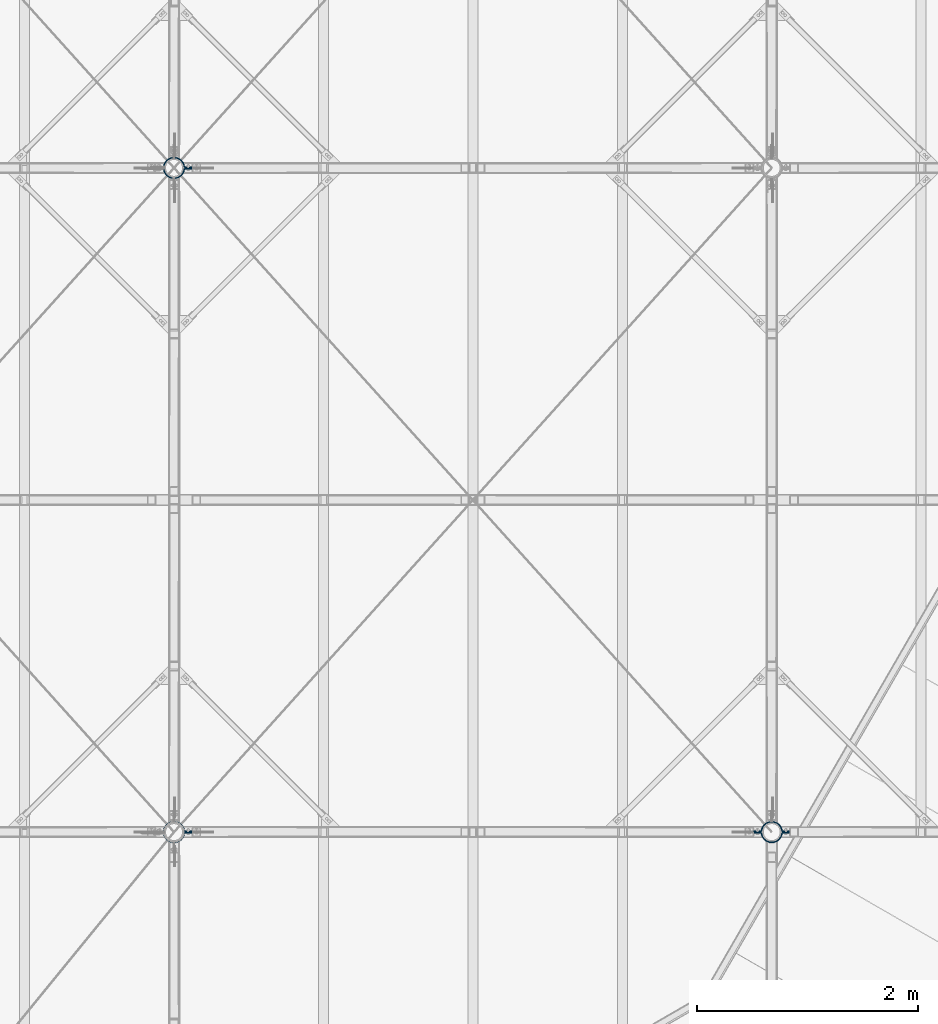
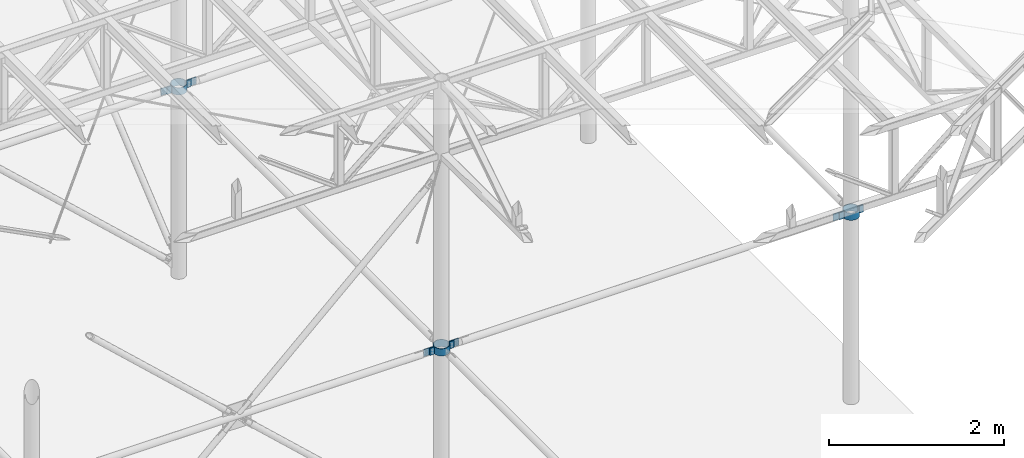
# One storey, part 128 of 132: 6 beams, 6 elements without a shape of their own.
"""IFC2X3 building model written with IfcOpenShell, lengths in millimetres."""

import ifcopenshell
import ifcopenshell.guid

model = None  # the IFC model being written
_history = None  # IfcOwnerHistory: only IFC2X3 demands one
_inside = {}  # id of a spatial element -> (the spatial element, [elements in it])
_under = {}  # id of a project, library or spatial element -> (it, [spatial elements below it])
_declared = {}  # id of a project -> (the project, [libraries it declares])
_typed = {}  # id of a type object -> (the type object, [elements of that type])
_made_of = {}  # id of a material, layer set ... -> (it, [elements and type objects made of it])


def new_model(schema):
    """Start an empty IFC model of exactly this schema.

    Asked for "IFC4X3", IfcOpenShell would pick the latest addendum, in which some entities
    have other attributes; the version numbers below select the first issue.
    IFC2X3 requires an IfcOwnerHistory on every rooted entity: one is made here for all.
    """
    global model, _history
    if schema == "IFC4X3":
        model = ifcopenshell.file(schema_version=(4, 3, 0, 0))
    else:
        model = ifcopenshell.file(schema=schema)
    _inside.clear()
    _under.clear()
    _declared.clear()
    _typed.clear()
    _made_of.clear()
    _history = None
    if model.schema == "IFC2X3":
        org = make("IfcOrganization", Name="unknown")
        user = make(
            "IfcPersonAndOrganization",
            ThePerson=make("IfcPerson", FamilyName="unknown"),
            TheOrganization=org,
        )
        app = make(
            "IfcApplication",
            ApplicationDeveloper=org,
            Version="unknown",
            ApplicationFullName="unknown",
            ApplicationIdentifier="unknown",
        )
        _history = make(
            "IfcOwnerHistory",
            OwningUser=user,
            OwningApplication=app,
            ChangeAction="ADDED",
            CreationDate=0,
        )
    return model


def make(cls, **values):
    """One entity of the class cls with the attributes given. An attribute that is None is left unset."""
    return model.create_entity(
        cls, **{name: value for name, value in values.items() if value is not None}
    )


def rooted(cls, **values):
    """An entity with a GlobalId (a new one), such as an element, a storey or a relation."""
    return make(cls, GlobalId=ifcopenshell.guid.new(), OwnerHistory=_history, **values)


def si_unit(unit_type, name, prefix=None):
    """IfcSIUnit, for example si_unit("LENGTHUNIT", "METRE", prefix="MILLI")."""
    return make("IfcSIUnit", UnitType=unit_type, Prefix=prefix, Name=name)


def assignment(units):
    """IfcUnitAssignment: the units of a project."""
    return None if units is None else make("IfcUnitAssignment", Units=units)


def point(xyz):
    """IfcCartesianPoint."""
    return None if xyz is None else make("IfcCartesianPoint", Coordinates=xyz)


def direction(xyz):
    """IfcDirection."""
    return None if xyz is None else make("IfcDirection", DirectionRatios=xyz)


def frame(location, z_axis=None, x_axis=None):
    """IfcAxis2Placement3D, a coordinate frame: its origin and axes. An axis left out is left unset."""
    return make(
        "IfcAxis2Placement3D",
        Location=point(location),
        Axis=direction(z_axis),
        RefDirection=direction(x_axis),
    )


def origin_with_axes():
    """The frame at (0, 0, 0) with the z axis (0, 0, 1) and the x axis (1, 0, 0) written out."""
    return frame((0.0, 0.0, 0.0), z_axis=(0.0, 0.0, 1.0), x_axis=(1.0, 0.0, 0.0))


def place(relative_to, where):
    """IfcLocalPlacement: puts the frame where relative to a parent placement (None: the world)."""
    return make(
        "IfcLocalPlacement", PlacementRelTo=relative_to, RelativePlacement=where
    )


def context(
    kind, dimensions, precision=None, world=None, true_north=None, identifier=None
):
    """IfcGeometricRepresentationContext, for example the 3D "Model" context."""
    return make(
        "IfcGeometricRepresentationContext",
        ContextIdentifier=identifier,
        ContextType=kind,
        CoordinateSpaceDimension=dimensions,
        Precision=precision,
        WorldCoordinateSystem=world,
        TrueNorth=true_north,
    )


def subcontext(parent, identifier, kind, view, scale=None):
    """IfcGeometricRepresentationSubContext, for example "Body" below "Model"."""
    return make(
        "IfcGeometricRepresentationSubContext",
        ContextIdentifier=identifier,
        ContextType=kind,
        ParentContext=parent,
        TargetScale=scale,
        TargetView=view,
    )


def project(units=None, contexts=None):
    """IfcProject with its units and contexts."""
    return rooted(
        "IfcProject",
        Name="project",
        RepresentationContexts=contexts,
        UnitsInContext=assignment(units),
    )


def spatial(cls, under=None, at=None, **own):
    """A site, building, storey or space (cls), placed at a placement, below another one or the project."""
    s = rooted(cls, ObjectPlacement=at, **own)
    if under is not None:
        _under.setdefault(under.id(), (under, []))[1].append(s)
    return s


def faces_of(points, faces, orient=None, outer=None):
    """IfcFace entities. A face is a list of loops; a loop is a list of indices into points, from 0.

    orient and outer hold one flag for each loop. By default every Orientation is true, the
    first loop of a face is its IfcFaceOuterBound and the others are IfcFaceBound.
    """
    made = []
    for i, loops in enumerate(faces):
        bounds = []
        for j, loop in enumerate(loops):
            is_outer = j == 0 if outer is None else outer[i][j]
            bounds.append(
                make(
                    "IfcFaceOuterBound" if is_outer else "IfcFaceBound",
                    Bound=make("IfcPolyLoop", Polygon=[points[k] for k in loop]),
                    Orientation=True if orient is None else orient[i][j],
                )
            )
        made.append(make("IfcFace", Bounds=bounds))
    return made


def faceted_brep(points, faces, orient=None, outer=None, voids=None):
    """IfcFacetedBrep: a solid bounded by flat faces; with voids (closed shells), ...WithVoids."""
    shared = [point(p) for p in points]
    hull = make("IfcClosedShell", CfsFaces=faces_of(shared, faces, orient, outer))
    if voids is None:
        return make("IfcFacetedBrep", Outer=hull)
    return make(
        "IfcFacetedBrepWithVoids",
        Outer=hull,
        Voids=[
            make(cls, CfsFaces=faces_of(shared, fs, o, b)) for cls, fs, o, b in voids
        ],
    )


def shape(context_of_items, identifier, shape_type, items):
    """IfcShapeRepresentation: the items that make up one representation, for example the "Body"."""
    return make(
        "IfcShapeRepresentation",
        ContextOfItems=context_of_items,
        RepresentationIdentifier=identifier,
        RepresentationType=shape_type,
        Items=items,
    )


def material(Name=None, Category=None):
    """IfcMaterial."""
    return make("IfcMaterial", Name=Name, Category=Category)


def made_of(thing, what):
    """Note that an element or type object is made of a material, layer set ...; save() writes the relation."""
    if what is not None:
        _made_of.setdefault(what.id(), (what, []))[1].append(thing)
    return thing


def type_object(cls, material=None, **own):
    """A type object (cls), such as IfcWallType, which elements share."""
    return made_of(rooted(cls, **own), material)


def element(
    cls,
    number,
    at=None,
    inside=None,
    cuts=None,
    type_object=None,
    material=None,
    context=None,
    identifier="Body",
    shape_type=None,
    held_by="IfcProductDefinitionShape",
    body=None,
    shapes=None,
    **own,
):
    """One element of the class cls, such as IfcWall. Its Tag is "e" and its number.

    at: its placement. inside: the storey or other place that contains it. cuts: it is an
    opening in that element (IfcRelVoidsElement). A single representation is given by context,
    identifier, shape_type and body (its items); several are given by shapes. held_by: the class
    of the entity that holds the representations. save() writes the other relations.
    """
    e = rooted(cls, Tag="e%d" % number, ObjectPlacement=at, **own)
    if body is not None:
        shapes = [shape(context, identifier, shape_type, body)]
    if shapes is not None:
        e.Representation = make(held_by, Representations=shapes)
    if inside is not None:
        _inside.setdefault(inside.id(), (inside, []))[1].append(e)
    if cuts is not None:
        rooted(
            "IfcRelVoidsElement", RelatingBuildingElement=cuts, RelatedOpeningElement=e
        )
    if type_object is not None:
        _typed.setdefault(type_object.id(), (type_object, []))[1].append(e)
    return made_of(e, material)


def aggregate(whole, parts):
    """IfcRelAggregates: a whole, such as a stair, and the parts it consists of."""
    return rooted("IfcRelAggregates", RelatingObject=whole, RelatedObjects=parts)


def save(model, path):
    """Write the relations noted so far, then the file.

    IfcRelAggregates (storeys below a building ...), IfcRelContainedInSpatialStructure (elements
    in a storey), IfcRelDefinesByType, IfcRelAssociatesMaterial and IfcRelDeclares: one each for
    every whole, place, type object, material and project.
    """
    for whole, parts in _under.values():
        aggregate(whole, parts)
    for where, things in _inside.values():
        rooted(
            "IfcRelContainedInSpatialStructure",
            RelatedElements=things,
            RelatingStructure=where,
        )
    for kind, things in _typed.values():
        rooted("IfcRelDefinesByType", RelatedObjects=things, RelatingType=kind)
    for what, things in _made_of.values():
        rooted("IfcRelAssociatesMaterial", RelatedObjects=things, RelatingMaterial=what)
    for by, libraries in _declared.values():
        rooted("IfcRelDeclares", RelatingContext=by, RelatedDefinitions=libraries)
    model.write(path)


model = new_model("IFC2X3")

# Units and contexts
model_context = context("Model", 3, precision=1e-05, world=origin_with_axes())
body_context = subcontext(model_context, "Body", "Model", "MODEL_VIEW")
ifc_project = project(units=[si_unit("LENGTHUNIT", "METRE", prefix="MILLI"), si_unit("AREAUNIT", "SQUARE_METRE"), si_unit("VOLUMEUNIT", "CUBIC_METRE"), si_unit("MASSUNIT", "GRAM", prefix="KILO"), si_unit("TIMEUNIT", "SECOND"), si_unit("PLANEANGLEUNIT", "RADIAN"), si_unit("SOLIDANGLEUNIT", "STERADIAN"), si_unit("THERMODYNAMICTEMPERATUREUNIT", "DEGREE_CELSIUS"), si_unit("LUMINOUSINTENSITYUNIT", "LUMEN")], contexts=[model_context])

# Site, building, storey
site_placement = place(None, origin_with_axes())
site = spatial("IfcSite", under=ifc_project, at=site_placement, Name="Budowa", CompositionType="ELEMENT")
building_placement = place(site_placement, origin_with_axes())
building = spatial("IfcBuilding", under=site, at=building_placement, Name="Undefined", CompositionType="ELEMENT")
storey_placement = place(building_placement, origin_with_axes())
storey = spatial("IfcBuildingStorey", under=building, at=storey_placement, Name="Undefined", CompositionType="ELEMENT", Elevation=0.0)

# Assembly, beam
assembly_1_placement = place(storey_placement, origin_with_axes())
assembly_1 = element("IfcElementAssembly", 1, at=assembly_1_placement, inside=storey, Name="Steel Assembly", AssemblyPlace="NOTDEFINED", PredefinedType="RIGID_FRAME")
ifc_material = material(Name="STEEL/S235JR")
beam_type = type_object("IfcBeamType", Name="BL8*100", PredefinedType="NOTDEFINED")
beam_1_placement = place(assembly_1_placement, frame((14591.863305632, 12006.00000016, 10116.0003779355), z_axis=(0.0, 0.0, 1.0), x_axis=(1.0, 0.0, 0.0)))
beam_1 = element("IfcBeam", 2, at=beam_1_placement, type_object=beam_type, material=ifc_material, Name="BEAM", ObjectType="BL8*100", context=body_context, shape_type="Brep", body=[
    faceted_brep([(0.0, 4.0, -50.0), (0.0, 4.0, 50.0), (129.968378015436, 4.0, 50.0), (129.968378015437, 4.00000000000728, -50.0), (0.0, -4.0, 50.0), (0.0, -4.0, -50.0), (129.968378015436, -4.0, -50.0), (129.968378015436, -4.0, 50.0), (133.662366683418, 4.90391321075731, 50.0), (133.662366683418, 4.90391321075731, -50.0), (137.356355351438, -2.19217357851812, -50.0), (137.356355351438, -2.19217357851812, 50.0), (143.074810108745, 2.82277613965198, -50.0), (143.074810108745, 2.82277613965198, 50.0), (136.521594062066, 7.41138806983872, 50.0), (136.521594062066, 7.41138806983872, -50.0), (145.83149558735, 9.91157932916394, -50.0), (145.83149558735, 9.91157932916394, 50.0), (137.899936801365, 10.9557896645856, 50.0), (137.899936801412, 10.9557896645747, -50.0), (138.988842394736, 19.2268423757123, 50.0), (138.988842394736, 19.2268423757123, -50.0), (146.782928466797, 17.1384239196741, -50.0), (146.782928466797, 17.1384239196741, 50.0), (148.726032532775, 42.7345153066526, 50.0), (148.726032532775, 42.7345153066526, -50.0), (155.714019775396, 38.7000007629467, -50.0), (155.714019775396, 38.7000007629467, 50.0), (164.215673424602, 62.9210138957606, 50.0), (164.215673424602, 62.9210138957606, -50.0), (169.921340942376, 57.2153472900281, -50.0), (169.921340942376, 57.2153472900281, 50.0), (184.402176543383, 78.4106633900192, 50.0), (184.402176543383, 78.4106633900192, -50.0), (188.436691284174, 71.4226760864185, -50.0), (188.436691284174, 71.4226760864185, 50.0), (207.909857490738, 88.1478534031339, 50.0), (207.909857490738, 88.1478534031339, -50.0), (209.998275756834, 80.3537673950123, -50.0), (209.998275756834, 80.3537673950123, 50.0), (233.136687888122, 91.4690333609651, 50.0), (233.136687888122, 91.4690333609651, -50.0), (233.136688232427, 83.4000015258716, -50.0), (233.136688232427, 83.4000015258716, 50.0), (258.363533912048, 88.1478535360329, 50.0), (258.363533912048, 88.1478535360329, -50.0), (256.275115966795, 80.3537673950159, -50.0), (256.275115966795, 80.3537673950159, 50.0), (281.87121518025, 78.4106633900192, 50.0), (281.87121518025, 78.4106633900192, -50.0), (277.836700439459, 71.4226760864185, -50.0), (277.836700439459, 71.4226760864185, 50.0), (302.057719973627, 62.9210126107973, 50.0), (302.057719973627, 62.9210126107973, -50.0), (296.352050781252, 57.2153472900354, -50.0), (296.352050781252, 57.2153472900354, 50.0), (317.5473417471, 42.7345172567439, 50.0), (317.5473417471, 42.7345172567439, -50.0), (310.559356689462, 38.7000007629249, -50.0), (310.559356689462, 38.7000007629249, 50.0), (327.284563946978, 19.2268472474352, 50.0), (327.284563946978, 19.2268472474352, -50.0), (319.490478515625, 17.138423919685, -50.0), (319.490478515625, 17.138423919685, 50.0), (328.37347018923, 10.9557895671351, 50.0), (328.373470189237, 10.9557895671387, -50.0), (320.4419114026, 9.91157923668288, -50.0), (320.4419114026, 9.91157923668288, 50.0), (329.751812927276, 7.41138797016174, 50.0), (329.751812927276, 7.41138797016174, -50.0), (323.19859687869, 2.82277604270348, -50.0), (323.19859687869, 2.82277604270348, 50.0), (328.917051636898, -2.19217367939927, -50.0), (328.917051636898, -2.19217367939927, 50.0), (332.611040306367, 4.90391310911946, 50.0), (332.611040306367, 4.90391310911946, -50.0), (336.305028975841, -3.99999989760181, -50.0), (336.305028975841, -3.99999989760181, 50.0), (336.30502897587, 4.00000010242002, 50.0), (336.305028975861, 4.0000001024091, -50.0), (466.273406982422, 4.0000001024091, 50.0), (466.273406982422, 4.0000001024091, -50.0), (466.273406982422, -3.9999998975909, 50.0), (466.273406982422, -3.9999998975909, -50.0)], [[[0, 1, 2, 3]], [[4, 5, 6, 7]], [[5, 4, 1, 0]], [[3, 2, 8, 9]], [[7, 6, 10, 11]], [[10, 12, 13, 11]], [[8, 14, 15, 9]], [[12, 16, 17, 13]], [[14, 18, 19, 15]], [[19, 18, 20, 21]], [[17, 16, 22, 23]], [[21, 20, 24, 25]], [[23, 22, 26, 27]], [[25, 24, 28, 29]], [[27, 26, 30, 31]], [[29, 28, 32, 33]], [[31, 30, 34, 35]], [[33, 32, 36, 37]], [[35, 34, 38, 39]], [[37, 36, 40, 41]], [[39, 38, 42, 43]], [[41, 40, 44, 45]], [[43, 42, 46, 47]], [[45, 44, 48, 49]], [[47, 46, 50, 51]], [[49, 48, 52, 53]], [[51, 50, 54, 55]], [[53, 52, 56, 57]], [[55, 54, 58, 59]], [[57, 56, 60, 61]], [[59, 58, 62, 63]], [[61, 60, 64, 65]], [[63, 62, 66, 67]], [[65, 64, 68, 69]], [[67, 66, 70, 71]], [[70, 72, 73, 71]], [[68, 74, 75, 69]], [[72, 76, 77, 73]], [[74, 78, 79, 75]], [[79, 78, 80, 81]], [[78, 74, 68, 64, 60, 56, 52, 48, 44, 40, 36, 32, 28, 24, 20, 18, 14, 8, 2, 1, 4, 7, 11, 13, 17, 23, 27, 31, 35, 39, 43, 47, 51, 55, 59, 63, 67, 71, 73, 77, 82, 80]], [[77, 76, 83, 82]], [[76, 72, 70, 66, 62, 58, 54, 50, 46, 42, 38, 34, 30, 26, 22, 16, 12, 10, 6, 5, 0, 3, 9, 15, 19, 21, 25, 29, 33, 37, 41, 45, 49, 53, 57, 61, 65, 69, 75, 79, 81, 83]], [[82, 83, 81, 80]]]),
])
aggregate(assembly_1, [beam_1])

assembly_2_placement = place(storey_placement, origin_with_axes())
assembly_2 = element("IfcElementAssembly", 3, at=assembly_2_placement, inside=storey, Name="Steel Assembly", AssemblyPlace="NOTDEFINED", PredefinedType="RIGID_FRAME")
beam_2_placement = place(assembly_2_placement, frame((14666.863305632, 11993.9999999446, 10116.0003779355), z_axis=(0.0, 0.0, 1.0), x_axis=(1.0, 0.0, 0.0)))
beam_2 = element("IfcBeam", 4, at=beam_2_placement, type_object=beam_type, material=ifc_material, Name="BEAM", ObjectType="BL8*100", context=body_context, shape_type="Brep", body=[
    faceted_brep([(0.0, 4.0, -50.0), (0.0, 4.0, 50.0), (54.9683780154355, 4.0, 50.0), (54.9683780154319, 4.00000000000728, -50.0), (0.0, -4.0, 50.0), (0.0, -4.0, -50.0), (54.9683780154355, -4.0, -50.0), (54.9683780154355, -4.0, 50.0), (62.3563553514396, 2.19217357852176, 50.0), (62.3563553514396, 2.19217357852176, -50.0), (58.6623666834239, -4.90391321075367, -50.0), (58.6623666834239, -4.90391321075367, 50.0), (61.521594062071, -7.41138806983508, -50.0), (61.521594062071, -7.41138806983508, 50.0), (68.0748101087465, -2.82277613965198, 50.0), (68.0748101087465, -2.82277613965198, -50.0), (62.8999368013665, -10.955789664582, -50.0), (62.8999368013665, -10.955789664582, 50.0), (70.831495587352, -9.91157932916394, 50.0), (70.8314955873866, -9.91157932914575, -50.0), (71.7829284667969, -17.1384239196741, 50.0), (71.7829284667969, -17.1384239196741, -50.0), (63.9888423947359, -19.2268423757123, -50.0), (63.9888423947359, -19.2268423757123, 50.0), (80.7140197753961, -38.7000007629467, 50.0), (80.7140197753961, -38.7000007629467, -50.0), (73.7260325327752, -42.7345153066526, -50.0), (73.7260325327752, -42.7345153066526, 50.0), (94.9213409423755, -57.2153472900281, 50.0), (94.9213409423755, -57.2153472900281, -50.0), (89.2156734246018, -62.9210138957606, -50.0), (89.2156734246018, -62.9210138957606, 50.0), (113.436691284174, -71.4226760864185, 50.0), (113.436691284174, -71.4226760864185, -50.0), (109.402176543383, -78.4106633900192, -50.0), (109.402176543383, -78.4106633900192, 50.0), (134.998275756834, -80.3537673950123, 50.0), (134.998275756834, -80.3537673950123, -50.0), (132.909857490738, -88.1478534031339, -50.0), (132.909857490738, -88.1478534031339, 50.0), (158.136688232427, -83.4000015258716, 50.0), (158.136688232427, -83.4000015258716, -50.0), (158.136687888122, -91.4690333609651, -50.0), (158.136687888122, -91.4690333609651, 50.0), (181.275115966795, -80.3537673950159, 50.0), (181.275115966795, -80.3537673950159, -50.0), (183.363533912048, -88.1478535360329, -50.0), (183.363533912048, -88.1478535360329, 50.0), (202.836700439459, -71.4226760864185, 50.0), (202.836700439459, -71.4226760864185, -50.0), (206.87121518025, -78.4106633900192, -50.0), (206.87121518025, -78.4106633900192, 50.0), (221.352050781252, -57.2153472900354, 50.0), (221.352050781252, -57.2153472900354, -50.0), (227.057719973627, -62.9210126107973, -50.0), (227.057719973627, -62.9210126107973, 50.0), (235.559356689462, -38.7000007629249, 50.0), (235.559356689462, -38.7000007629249, -50.0), (242.5473417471, -42.7345172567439, -50.0), (242.5473417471, -42.7345172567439, 50.0), (244.490478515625, -17.138423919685, 50.0), (244.490478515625, -17.138423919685, -50.0), (252.284563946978, -19.2268472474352, -50.0), (252.284563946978, -19.2268472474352, 50.0), (245.4419114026, -9.91157923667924, 50.0), (245.441911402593, -9.91157923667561, -50.0), (253.37347018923, -10.9557895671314, -50.0), (253.37347018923, -10.9557895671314, 50.0), (248.198596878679, -2.82277604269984, 50.0), (248.198596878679, -2.82277604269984, -50.0), (254.75181292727, -7.41138797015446, -50.0), (254.75181292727, -7.41138797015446, 50.0), (257.611040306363, -4.90391310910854, -50.0), (257.611040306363, -4.90391310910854, 50.0), (253.917051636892, 2.19217367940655, 50.0), (253.917051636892, 2.19217367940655, -50.0), (261.305028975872, -4.00000010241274, -50.0), (261.305028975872, -4.00000010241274, 50.0), (261.305028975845, 3.99999989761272, 50.0), (261.305028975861, 3.9999998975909, -50.0), (316.273406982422, 3.9999998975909, 50.0), (316.273406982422, 3.9999998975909, -50.0), (316.273406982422, -4.0000001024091, 50.0), (316.273406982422, -4.0000001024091, -50.0)], [[[0, 1, 2, 3]], [[4, 5, 6, 7]], [[5, 4, 1, 0]], [[3, 2, 8, 9]], [[7, 6, 10, 11]], [[10, 12, 13, 11]], [[8, 14, 15, 9]], [[12, 16, 17, 13]], [[14, 18, 19, 15]], [[19, 18, 20, 21]], [[17, 16, 22, 23]], [[21, 20, 24, 25]], [[23, 22, 26, 27]], [[25, 24, 28, 29]], [[27, 26, 30, 31]], [[29, 28, 32, 33]], [[31, 30, 34, 35]], [[33, 32, 36, 37]], [[35, 34, 38, 39]], [[37, 36, 40, 41]], [[39, 38, 42, 43]], [[41, 40, 44, 45]], [[43, 42, 46, 47]], [[45, 44, 48, 49]], [[47, 46, 50, 51]], [[49, 48, 52, 53]], [[51, 50, 54, 55]], [[53, 52, 56, 57]], [[55, 54, 58, 59]], [[57, 56, 60, 61]], [[59, 58, 62, 63]], [[61, 60, 64, 65]], [[63, 62, 66, 67]], [[65, 64, 68, 69]], [[67, 66, 70, 71]], [[70, 72, 73, 71]], [[68, 74, 75, 69]], [[72, 76, 77, 73]], [[74, 78, 79, 75]], [[79, 78, 80, 81]], [[78, 74, 68, 64, 60, 56, 52, 48, 44, 40, 36, 32, 28, 24, 20, 18, 14, 8, 2, 1, 4, 7, 11, 13, 17, 23, 27, 31, 35, 39, 43, 47, 51, 55, 59, 63, 67, 71, 73, 77, 82, 80]], [[77, 76, 83, 82]], [[76, 72, 70, 66, 62, 58, 54, 50, 46, 42, 38, 34, 30, 26, 22, 16, 12, 10, 6, 5, 0, 3, 9, 15, 19, 21, 25, 29, 33, 37, 41, 45, 49, 53, 57, 61, 65, 69, 75, 79, 81, 83]], [[82, 83, 81, 80]]]),
])
aggregate(assembly_2, [beam_2])

assembly_3_placement = place(storey_placement, origin_with_axes())
assembly_3 = element("IfcElementAssembly", 5, at=assembly_3_placement, inside=storey, Name="Steel Assembly", AssemblyPlace="NOTDEFINED", PredefinedType="RIGID_FRAME")
beam_3_placement = place(assembly_3_placement, frame((19991.8633056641, 6006.00000016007, 10116.0003779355), z_axis=(0.0, 0.0, 1.0), x_axis=(1.0, 0.0, 0.0)))
beam_3 = element("IfcBeam", 6, at=beam_3_placement, type_object=beam_type, material=ifc_material, Name="BEAM", ObjectType="BL8*100", context=body_context, shape_type="Brep", body=[
    faceted_brep([(0.0, 4.0, -50.0), (0.0, 4.0, 50.0), (129.968378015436, 4.0, 50.0), (129.968378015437, 4.00000000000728, -50.0), (0.0, -4.0, 50.0), (0.0, -4.0, -50.0), (129.968378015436, -4.0, -50.0), (129.968378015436, -4.0, 50.0), (133.662366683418, 4.90391321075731, 50.0), (133.662366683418, 4.90391321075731, -50.0), (137.356355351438, -2.19217357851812, -50.0), (137.356355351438, -2.19217357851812, 50.0), (143.074810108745, 2.82277613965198, -50.0), (143.074810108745, 2.82277613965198, 50.0), (136.521594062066, 7.41138806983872, 50.0), (136.521594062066, 7.41138806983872, -50.0), (145.83149558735, 9.91157932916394, -50.0), (145.83149558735, 9.91157932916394, 50.0), (137.899936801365, 10.9557896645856, 50.0), (137.899936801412, 10.9557896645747, -50.0), (138.988842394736, 19.2268423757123, 50.0), (138.988842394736, 19.2268423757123, -50.0), (146.782928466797, 17.1384239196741, -50.0), (146.782928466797, 17.1384239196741, 50.0), (148.726032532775, 42.7345153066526, 50.0), (148.726032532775, 42.7345153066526, -50.0), (155.714019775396, 38.7000007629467, -50.0), (155.714019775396, 38.7000007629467, 50.0), (164.215673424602, 62.9210138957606, 50.0), (164.215673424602, 62.9210138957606, -50.0), (169.921340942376, 57.2153472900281, -50.0), (169.921340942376, 57.2153472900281, 50.0), (184.402176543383, 78.4106633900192, 50.0), (184.402176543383, 78.4106633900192, -50.0), (188.436691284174, 71.4226760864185, -50.0), (188.436691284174, 71.4226760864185, 50.0), (207.909857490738, 88.1478534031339, 50.0), (207.909857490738, 88.1478534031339, -50.0), (209.998275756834, 80.3537673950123, -50.0), (209.998275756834, 80.3537673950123, 50.0), (233.136687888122, 91.4690333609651, 50.0), (233.136687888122, 91.4690333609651, -50.0), (233.136688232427, 83.4000015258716, -50.0), (233.136688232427, 83.4000015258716, 50.0), (258.363533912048, 88.1478535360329, 50.0), (258.363533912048, 88.1478535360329, -50.0), (256.275115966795, 80.3537673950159, -50.0), (256.275115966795, 80.3537673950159, 50.0), (281.87121518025, 78.4106633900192, 50.0), (281.87121518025, 78.4106633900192, -50.0), (277.836700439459, 71.4226760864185, -50.0), (277.836700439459, 71.4226760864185, 50.0), (302.057719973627, 62.9210126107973, 50.0), (302.057719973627, 62.9210126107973, -50.0), (296.352050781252, 57.2153472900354, -50.0), (296.352050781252, 57.2153472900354, 50.0), (317.5473417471, 42.7345172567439, 50.0), (317.5473417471, 42.7345172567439, -50.0), (310.559356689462, 38.7000007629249, -50.0), (310.559356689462, 38.7000007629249, 50.0), (327.284563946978, 19.2268472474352, 50.0), (327.284563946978, 19.2268472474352, -50.0), (319.490478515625, 17.138423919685, -50.0), (319.490478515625, 17.138423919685, 50.0), (328.37347018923, 10.9557895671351, 50.0), (328.373470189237, 10.9557895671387, -50.0), (320.4419114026, 9.91157923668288, -50.0), (320.4419114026, 9.91157923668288, 50.0), (329.751812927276, 7.41138797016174, 50.0), (329.751812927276, 7.41138797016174, -50.0), (323.19859687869, 2.82277604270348, -50.0), (323.19859687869, 2.82277604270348, 50.0), (328.917051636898, -2.19217367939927, -50.0), (328.917051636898, -2.19217367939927, 50.0), (332.611040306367, 4.90391310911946, 50.0), (332.611040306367, 4.90391310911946, -50.0), (336.305028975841, -3.99999989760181, -50.0), (336.305028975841, -3.99999989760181, 50.0), (336.30502897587, 4.00000010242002, 50.0), (336.305028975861, 4.0000001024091, -50.0), (391.273406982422, 4.0000001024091, 50.0), (391.273406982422, 4.0000001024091, -50.0), (391.273406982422, -3.9999998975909, 50.0), (391.273406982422, -3.9999998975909, -50.0)], [[[0, 1, 2, 3]], [[4, 5, 6, 7]], [[5, 4, 1, 0]], [[3, 2, 8, 9]], [[7, 6, 10, 11]], [[10, 12, 13, 11]], [[8, 14, 15, 9]], [[12, 16, 17, 13]], [[14, 18, 19, 15]], [[19, 18, 20, 21]], [[17, 16, 22, 23]], [[21, 20, 24, 25]], [[23, 22, 26, 27]], [[25, 24, 28, 29]], [[27, 26, 30, 31]], [[29, 28, 32, 33]], [[31, 30, 34, 35]], [[33, 32, 36, 37]], [[35, 34, 38, 39]], [[37, 36, 40, 41]], [[39, 38, 42, 43]], [[41, 40, 44, 45]], [[43, 42, 46, 47]], [[45, 44, 48, 49]], [[47, 46, 50, 51]], [[49, 48, 52, 53]], [[51, 50, 54, 55]], [[53, 52, 56, 57]], [[55, 54, 58, 59]], [[57, 56, 60, 61]], [[59, 58, 62, 63]], [[61, 60, 64, 65]], [[63, 62, 66, 67]], [[65, 64, 68, 69]], [[67, 66, 70, 71]], [[70, 72, 73, 71]], [[68, 74, 75, 69]], [[72, 76, 77, 73]], [[74, 78, 79, 75]], [[79, 78, 80, 81]], [[78, 74, 68, 64, 60, 56, 52, 48, 44, 40, 36, 32, 28, 24, 20, 18, 14, 8, 2, 1, 4, 7, 11, 13, 17, 23, 27, 31, 35, 39, 43, 47, 51, 55, 59, 63, 67, 71, 73, 77, 82, 80]], [[77, 76, 83, 82]], [[76, 72, 70, 66, 62, 58, 54, 50, 46, 42, 38, 34, 30, 26, 22, 16, 12, 10, 6, 5, 0, 3, 9, 15, 19, 21, 25, 29, 33, 37, 41, 45, 49, 53, 57, 61, 65, 69, 75, 79, 81, 83]], [[82, 83, 81, 80]]]),
])
aggregate(assembly_3, [beam_3])

assembly_4_placement = place(storey_placement, origin_with_axes())
assembly_4 = element("IfcElementAssembly", 7, at=assembly_4_placement, inside=storey, Name="Steel Assembly", AssemblyPlace="NOTDEFINED", PredefinedType="RIGID_FRAME")
beam_4_placement = place(assembly_4_placement, frame((20066.8633056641, 5993.99999994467, 10116.0003779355), z_axis=(0.0, 0.0, 1.0), x_axis=(1.0, 0.0, 0.0)))
beam_4 = element("IfcBeam", 8, at=beam_4_placement, type_object=beam_type, material=ifc_material, Name="BEAM", ObjectType="BL8*100", context=body_context, shape_type="Brep", body=[
    faceted_brep([(0.0, 4.0, -50.0), (0.0, 4.0, 50.0), (54.9683780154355, 4.0, 50.0), (54.9683780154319, 4.00000000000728, -50.0), (0.0, -4.0, 50.0), (0.0, -4.0, -50.0), (54.9683780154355, -4.0, -50.0), (54.9683780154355, -4.0, 50.0), (62.3563553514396, 2.19217357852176, 50.0), (62.3563553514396, 2.19217357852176, -50.0), (58.6623666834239, -4.90391321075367, -50.0), (58.6623666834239, -4.90391321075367, 50.0), (61.521594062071, -7.41138806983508, -50.0), (61.521594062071, -7.41138806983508, 50.0), (68.0748101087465, -2.82277613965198, 50.0), (68.0748101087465, -2.82277613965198, -50.0), (62.8999368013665, -10.955789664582, -50.0), (62.8999368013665, -10.955789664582, 50.0), (70.831495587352, -9.91157932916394, 50.0), (70.8314955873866, -9.91157932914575, -50.0), (71.7829284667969, -17.1384239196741, 50.0), (71.7829284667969, -17.1384239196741, -50.0), (63.9888423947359, -19.2268423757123, -50.0), (63.9888423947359, -19.2268423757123, 50.0), (80.7140197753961, -38.7000007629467, 50.0), (80.7140197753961, -38.7000007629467, -50.0), (73.7260325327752, -42.7345153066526, -50.0), (73.7260325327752, -42.7345153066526, 50.0), (94.9213409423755, -57.2153472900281, 50.0), (94.9213409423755, -57.2153472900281, -50.0), (89.2156734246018, -62.9210138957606, -50.0), (89.2156734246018, -62.9210138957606, 50.0), (113.436691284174, -71.4226760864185, 50.0), (113.436691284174, -71.4226760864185, -50.0), (109.402176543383, -78.4106633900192, -50.0), (109.402176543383, -78.4106633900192, 50.0), (134.998275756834, -80.3537673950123, 50.0), (134.998275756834, -80.3537673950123, -50.0), (132.909857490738, -88.1478534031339, -50.0), (132.909857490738, -88.1478534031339, 50.0), (158.136688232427, -83.4000015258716, 50.0), (158.136688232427, -83.4000015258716, -50.0), (158.136687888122, -91.4690333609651, -50.0), (158.136687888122, -91.4690333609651, 50.0), (181.275115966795, -80.3537673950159, 50.0), (181.275115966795, -80.3537673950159, -50.0), (183.363533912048, -88.1478535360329, -50.0), (183.363533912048, -88.1478535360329, 50.0), (202.836700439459, -71.4226760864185, 50.0), (202.836700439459, -71.4226760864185, -50.0), (206.87121518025, -78.4106633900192, -50.0), (206.87121518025, -78.4106633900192, 50.0), (221.352050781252, -57.2153472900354, 50.0), (221.352050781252, -57.2153472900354, -50.0), (227.057719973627, -62.9210126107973, -50.0), (227.057719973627, -62.9210126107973, 50.0), (235.559356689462, -38.7000007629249, 50.0), (235.559356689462, -38.7000007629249, -50.0), (242.5473417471, -42.7345172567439, -50.0), (242.5473417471, -42.7345172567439, 50.0), (244.490478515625, -17.138423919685, 50.0), (244.490478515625, -17.138423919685, -50.0), (252.284563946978, -19.2268472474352, -50.0), (252.284563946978, -19.2268472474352, 50.0), (245.4419114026, -9.91157923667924, 50.0), (245.441911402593, -9.91157923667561, -50.0), (253.37347018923, -10.9557895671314, -50.0), (253.37347018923, -10.9557895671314, 50.0), (248.198596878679, -2.82277604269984, 50.0), (248.198596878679, -2.82277604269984, -50.0), (254.75181292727, -7.41138797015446, -50.0), (254.75181292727, -7.41138797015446, 50.0), (257.611040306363, -4.90391310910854, -50.0), (257.611040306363, -4.90391310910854, 50.0), (253.917051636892, 2.19217367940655, 50.0), (253.917051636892, 2.19217367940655, -50.0), (261.305028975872, -4.00000010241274, -50.0), (261.305028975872, -4.00000010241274, 50.0), (261.305028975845, 3.99999989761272, 50.0), (261.305028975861, 3.9999998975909, -50.0), (316.273406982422, 3.9999998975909, 50.0), (316.273406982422, 3.9999998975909, -50.0), (316.273406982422, -4.0000001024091, 50.0), (316.273406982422, -4.0000001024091, -50.0)], [[[0, 1, 2, 3]], [[4, 5, 6, 7]], [[5, 4, 1, 0]], [[3, 2, 8, 9]], [[7, 6, 10, 11]], [[10, 12, 13, 11]], [[8, 14, 15, 9]], [[12, 16, 17, 13]], [[14, 18, 19, 15]], [[19, 18, 20, 21]], [[17, 16, 22, 23]], [[21, 20, 24, 25]], [[23, 22, 26, 27]], [[25, 24, 28, 29]], [[27, 26, 30, 31]], [[29, 28, 32, 33]], [[31, 30, 34, 35]], [[33, 32, 36, 37]], [[35, 34, 38, 39]], [[37, 36, 40, 41]], [[39, 38, 42, 43]], [[41, 40, 44, 45]], [[43, 42, 46, 47]], [[45, 44, 48, 49]], [[47, 46, 50, 51]], [[49, 48, 52, 53]], [[51, 50, 54, 55]], [[53, 52, 56, 57]], [[55, 54, 58, 59]], [[57, 56, 60, 61]], [[59, 58, 62, 63]], [[61, 60, 64, 65]], [[63, 62, 66, 67]], [[65, 64, 68, 69]], [[67, 66, 70, 71]], [[70, 72, 73, 71]], [[68, 74, 75, 69]], [[72, 76, 77, 73]], [[74, 78, 79, 75]], [[79, 78, 80, 81]], [[78, 74, 68, 64, 60, 56, 52, 48, 44, 40, 36, 32, 28, 24, 20, 18, 14, 8, 2, 1, 4, 7, 11, 13, 17, 23, 27, 31, 35, 39, 43, 47, 51, 55, 59, 63, 67, 71, 73, 77, 82, 80]], [[77, 76, 83, 82]], [[76, 72, 70, 66, 62, 58, 54, 50, 46, 42, 38, 34, 30, 26, 22, 16, 12, 10, 6, 5, 0, 3, 9, 15, 19, 21, 25, 29, 33, 37, 41, 45, 49, 53, 57, 61, 65, 69, 75, 79, 81, 83]], [[82, 83, 81, 80]]]),
])
aggregate(assembly_4, [beam_4])

assembly_5_placement = place(storey_placement, origin_with_axes())
assembly_5 = element("IfcElementAssembly", 9, at=assembly_5_placement, inside=storey, Name="Steel Assembly", AssemblyPlace="NOTDEFINED", PredefinedType="RIGID_FRAME")
beam_5_placement = place(assembly_5_placement, frame((14591.863305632, 6006.00000016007, 10116.0003779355), z_axis=(0.0, 0.0, 1.0), x_axis=(1.0, 0.0, 0.0)))
beam_5 = element("IfcBeam", 10, at=beam_5_placement, type_object=beam_type, material=ifc_material, Name="BEAM", ObjectType="BL8*100", context=body_context, shape_type="Brep", body=[
    faceted_brep([(0.0, 4.0, -50.0), (0.0, 4.0, 50.0), (129.968378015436, 4.0, 50.0), (129.968378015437, 4.00000000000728, -50.0), (0.0, -4.0, 50.0), (0.0, -4.0, -50.0), (129.968378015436, -4.0, -50.0), (129.968378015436, -4.0, 50.0), (133.662366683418, 4.90391321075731, 50.0), (133.662366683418, 4.90391321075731, -50.0), (137.356355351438, -2.19217357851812, -50.0), (137.356355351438, -2.19217357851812, 50.0), (143.074810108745, 2.82277613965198, -50.0), (143.074810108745, 2.82277613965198, 50.0), (136.521594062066, 7.41138806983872, 50.0), (136.521594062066, 7.41138806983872, -50.0), (145.83149558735, 9.91157932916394, -50.0), (145.83149558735, 9.91157932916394, 50.0), (137.899936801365, 10.9557896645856, 50.0), (137.899936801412, 10.9557896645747, -50.0), (138.988842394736, 19.2268423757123, 50.0), (138.988842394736, 19.2268423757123, -50.0), (146.782928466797, 17.1384239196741, -50.0), (146.782928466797, 17.1384239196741, 50.0), (148.726032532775, 42.7345153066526, 50.0), (148.726032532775, 42.7345153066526, -50.0), (155.714019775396, 38.7000007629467, -50.0), (155.714019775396, 38.7000007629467, 50.0), (164.215673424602, 62.9210138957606, 50.0), (164.215673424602, 62.9210138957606, -50.0), (169.921340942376, 57.2153472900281, -50.0), (169.921340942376, 57.2153472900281, 50.0), (184.402176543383, 78.4106633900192, 50.0), (184.402176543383, 78.4106633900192, -50.0), (188.436691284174, 71.4226760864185, -50.0), (188.436691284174, 71.4226760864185, 50.0), (207.909857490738, 88.1478534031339, 50.0), (207.909857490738, 88.1478534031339, -50.0), (209.998275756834, 80.3537673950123, -50.0), (209.998275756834, 80.3537673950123, 50.0), (233.136687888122, 91.4690333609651, 50.0), (233.136687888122, 91.4690333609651, -50.0), (233.136688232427, 83.4000015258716, -50.0), (233.136688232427, 83.4000015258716, 50.0), (258.363533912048, 88.1478535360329, 50.0), (258.363533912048, 88.1478535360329, -50.0), (256.275115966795, 80.3537673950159, -50.0), (256.275115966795, 80.3537673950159, 50.0), (281.87121518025, 78.4106633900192, 50.0), (281.87121518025, 78.4106633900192, -50.0), (277.836700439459, 71.4226760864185, -50.0), (277.836700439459, 71.4226760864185, 50.0), (302.057719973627, 62.9210126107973, 50.0), (302.057719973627, 62.9210126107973, -50.0), (296.352050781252, 57.2153472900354, -50.0), (296.352050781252, 57.2153472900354, 50.0), (317.5473417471, 42.7345172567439, 50.0), (317.5473417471, 42.7345172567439, -50.0), (310.559356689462, 38.7000007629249, -50.0), (310.559356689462, 38.7000007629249, 50.0), (327.284563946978, 19.2268472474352, 50.0), (327.284563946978, 19.2268472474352, -50.0), (319.490478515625, 17.138423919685, -50.0), (319.490478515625, 17.138423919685, 50.0), (328.37347018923, 10.9557895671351, 50.0), (328.373470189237, 10.9557895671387, -50.0), (320.4419114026, 9.91157923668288, -50.0), (320.4419114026, 9.91157923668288, 50.0), (329.751812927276, 7.41138797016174, 50.0), (329.751812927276, 7.41138797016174, -50.0), (323.19859687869, 2.82277604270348, -50.0), (323.19859687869, 2.82277604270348, 50.0), (328.917051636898, -2.19217367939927, -50.0), (328.917051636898, -2.19217367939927, 50.0), (332.611040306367, 4.90391310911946, 50.0), (332.611040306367, 4.90391310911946, -50.0), (336.305028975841, -3.99999989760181, -50.0), (336.305028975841, -3.99999989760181, 50.0), (336.30502897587, 4.00000010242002, 50.0), (336.305028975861, 4.0000001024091, -50.0), (466.273406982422, 4.0000001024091, 50.0), (466.273406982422, 4.0000001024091, -50.0), (466.273406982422, -3.9999998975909, 50.0), (466.273406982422, -3.9999998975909, -50.0)], [[[0, 1, 2, 3]], [[4, 5, 6, 7]], [[5, 4, 1, 0]], [[3, 2, 8, 9]], [[7, 6, 10, 11]], [[10, 12, 13, 11]], [[8, 14, 15, 9]], [[12, 16, 17, 13]], [[14, 18, 19, 15]], [[19, 18, 20, 21]], [[17, 16, 22, 23]], [[21, 20, 24, 25]], [[23, 22, 26, 27]], [[25, 24, 28, 29]], [[27, 26, 30, 31]], [[29, 28, 32, 33]], [[31, 30, 34, 35]], [[33, 32, 36, 37]], [[35, 34, 38, 39]], [[37, 36, 40, 41]], [[39, 38, 42, 43]], [[41, 40, 44, 45]], [[43, 42, 46, 47]], [[45, 44, 48, 49]], [[47, 46, 50, 51]], [[49, 48, 52, 53]], [[51, 50, 54, 55]], [[53, 52, 56, 57]], [[55, 54, 58, 59]], [[57, 56, 60, 61]], [[59, 58, 62, 63]], [[61, 60, 64, 65]], [[63, 62, 66, 67]], [[65, 64, 68, 69]], [[67, 66, 70, 71]], [[70, 72, 73, 71]], [[68, 74, 75, 69]], [[72, 76, 77, 73]], [[74, 78, 79, 75]], [[79, 78, 80, 81]], [[78, 74, 68, 64, 60, 56, 52, 48, 44, 40, 36, 32, 28, 24, 20, 18, 14, 8, 2, 1, 4, 7, 11, 13, 17, 23, 27, 31, 35, 39, 43, 47, 51, 55, 59, 63, 67, 71, 73, 77, 82, 80]], [[77, 76, 83, 82]], [[76, 72, 70, 66, 62, 58, 54, 50, 46, 42, 38, 34, 30, 26, 22, 16, 12, 10, 6, 5, 0, 3, 9, 15, 19, 21, 25, 29, 33, 37, 41, 45, 49, 53, 57, 61, 65, 69, 75, 79, 81, 83]], [[82, 83, 81, 80]]]),
])
aggregate(assembly_5, [beam_5])

assembly_6_placement = place(storey_placement, origin_with_axes())
assembly_6 = element("IfcElementAssembly", 11, at=assembly_6_placement, inside=storey, Name="Steel Assembly", AssemblyPlace="NOTDEFINED", PredefinedType="RIGID_FRAME")
beam_6_placement = place(assembly_6_placement, frame((14666.863305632, 5993.99999994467, 10116.0003779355), z_axis=(0.0, 0.0, 1.0), x_axis=(1.0, 0.0, 0.0)))
beam_6 = element("IfcBeam", 12, at=beam_6_placement, type_object=beam_type, material=ifc_material, Name="BEAM", ObjectType="BL8*100", context=body_context, shape_type="Brep", body=[
    faceted_brep([(0.0, 4.0, -50.0), (0.0, 4.0, 50.0), (54.9683780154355, 4.0, 50.0), (54.9683780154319, 4.00000000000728, -50.0), (0.0, -4.0, 50.0), (0.0, -4.0, -50.0), (54.9683780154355, -4.0, -50.0), (54.9683780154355, -4.0, 50.0), (62.3563553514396, 2.19217357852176, 50.0), (62.3563553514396, 2.19217357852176, -50.0), (58.6623666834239, -4.90391321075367, -50.0), (58.6623666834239, -4.90391321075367, 50.0), (61.521594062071, -7.41138806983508, -50.0), (61.521594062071, -7.41138806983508, 50.0), (68.0748101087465, -2.82277613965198, 50.0), (68.0748101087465, -2.82277613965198, -50.0), (62.8999368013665, -10.955789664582, -50.0), (62.8999368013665, -10.955789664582, 50.0), (70.831495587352, -9.91157932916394, 50.0), (70.8314955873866, -9.91157932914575, -50.0), (71.7829284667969, -17.1384239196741, 50.0), (71.7829284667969, -17.1384239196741, -50.0), (63.9888423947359, -19.2268423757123, -50.0), (63.9888423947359, -19.2268423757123, 50.0), (80.7140197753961, -38.7000007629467, 50.0), (80.7140197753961, -38.7000007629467, -50.0), (73.7260325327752, -42.7345153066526, -50.0), (73.7260325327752, -42.7345153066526, 50.0), (94.9213409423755, -57.2153472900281, 50.0), (94.9213409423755, -57.2153472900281, -50.0), (89.2156734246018, -62.9210138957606, -50.0), (89.2156734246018, -62.9210138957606, 50.0), (113.436691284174, -71.4226760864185, 50.0), (113.436691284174, -71.4226760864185, -50.0), (109.402176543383, -78.4106633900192, -50.0), (109.402176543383, -78.4106633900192, 50.0), (134.998275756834, -80.3537673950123, 50.0), (134.998275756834, -80.3537673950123, -50.0), (132.909857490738, -88.1478534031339, -50.0), (132.909857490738, -88.1478534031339, 50.0), (158.136688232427, -83.4000015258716, 50.0), (158.136688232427, -83.4000015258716, -50.0), (158.136687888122, -91.4690333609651, -50.0), (158.136687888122, -91.4690333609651, 50.0), (181.275115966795, -80.3537673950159, 50.0), (181.275115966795, -80.3537673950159, -50.0), (183.363533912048, -88.1478535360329, -50.0), (183.363533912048, -88.1478535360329, 50.0), (202.836700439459, -71.4226760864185, 50.0), (202.836700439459, -71.4226760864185, -50.0), (206.87121518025, -78.4106633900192, -50.0), (206.87121518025, -78.4106633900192, 50.0), (221.352050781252, -57.2153472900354, 50.0), (221.352050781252, -57.2153472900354, -50.0), (227.057719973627, -62.9210126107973, -50.0), (227.057719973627, -62.9210126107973, 50.0), (235.559356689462, -38.7000007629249, 50.0), (235.559356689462, -38.7000007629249, -50.0), (242.5473417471, -42.7345172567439, -50.0), (242.5473417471, -42.7345172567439, 50.0), (244.490478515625, -17.138423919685, 50.0), (244.490478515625, -17.138423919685, -50.0), (252.284563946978, -19.2268472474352, -50.0), (252.284563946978, -19.2268472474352, 50.0), (245.4419114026, -9.91157923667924, 50.0), (245.441911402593, -9.91157923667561, -50.0), (253.37347018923, -10.9557895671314, -50.0), (253.37347018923, -10.9557895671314, 50.0), (248.198596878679, -2.82277604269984, 50.0), (248.198596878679, -2.82277604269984, -50.0), (254.75181292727, -7.41138797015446, -50.0), (254.75181292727, -7.41138797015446, 50.0), (257.611040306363, -4.90391310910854, -50.0), (257.611040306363, -4.90391310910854, 50.0), (253.917051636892, 2.19217367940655, 50.0), (253.917051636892, 2.19217367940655, -50.0), (261.305028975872, -4.00000010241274, -50.0), (261.305028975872, -4.00000010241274, 50.0), (261.305028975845, 3.99999989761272, 50.0), (261.305028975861, 3.9999998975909, -50.0), (316.273406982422, 3.9999998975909, 50.0), (316.273406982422, 3.9999998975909, -50.0), (316.273406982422, -4.0000001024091, 50.0), (316.273406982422, -4.0000001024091, -50.0)], [[[0, 1, 2, 3]], [[4, 5, 6, 7]], [[5, 4, 1, 0]], [[3, 2, 8, 9]], [[7, 6, 10, 11]], [[10, 12, 13, 11]], [[8, 14, 15, 9]], [[12, 16, 17, 13]], [[14, 18, 19, 15]], [[19, 18, 20, 21]], [[17, 16, 22, 23]], [[21, 20, 24, 25]], [[23, 22, 26, 27]], [[25, 24, 28, 29]], [[27, 26, 30, 31]], [[29, 28, 32, 33]], [[31, 30, 34, 35]], [[33, 32, 36, 37]], [[35, 34, 38, 39]], [[37, 36, 40, 41]], [[39, 38, 42, 43]], [[41, 40, 44, 45]], [[43, 42, 46, 47]], [[45, 44, 48, 49]], [[47, 46, 50, 51]], [[49, 48, 52, 53]], [[51, 50, 54, 55]], [[53, 52, 56, 57]], [[55, 54, 58, 59]], [[57, 56, 60, 61]], [[59, 58, 62, 63]], [[61, 60, 64, 65]], [[63, 62, 66, 67]], [[65, 64, 68, 69]], [[67, 66, 70, 71]], [[70, 72, 73, 71]], [[68, 74, 75, 69]], [[72, 76, 77, 73]], [[74, 78, 79, 75]], [[79, 78, 80, 81]], [[78, 74, 68, 64, 60, 56, 52, 48, 44, 40, 36, 32, 28, 24, 20, 18, 14, 8, 2, 1, 4, 7, 11, 13, 17, 23, 27, 31, 35, 39, 43, 47, 51, 55, 59, 63, 67, 71, 73, 77, 82, 80]], [[77, 76, 83, 82]], [[76, 72, 70, 66, 62, 58, 54, 50, 46, 42, 38, 34, 30, 26, 22, 16, 12, 10, 6, 5, 0, 3, 9, 15, 19, 21, 25, 29, 33, 37, 41, 45, 49, 53, 57, 61, 65, 69, 75, 79, 81, 83]], [[82, 83, 81, 80]]]),
])
aggregate(assembly_6, [beam_6])

save(model, "model.ifc")
